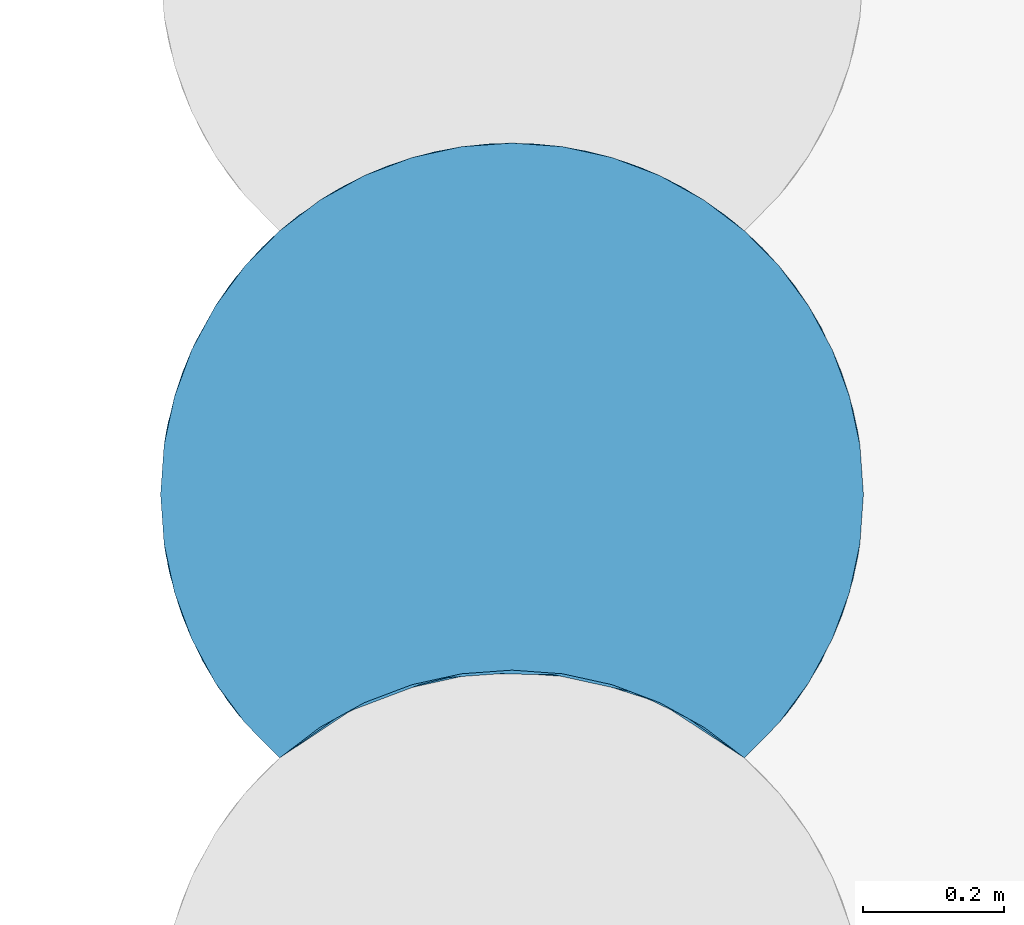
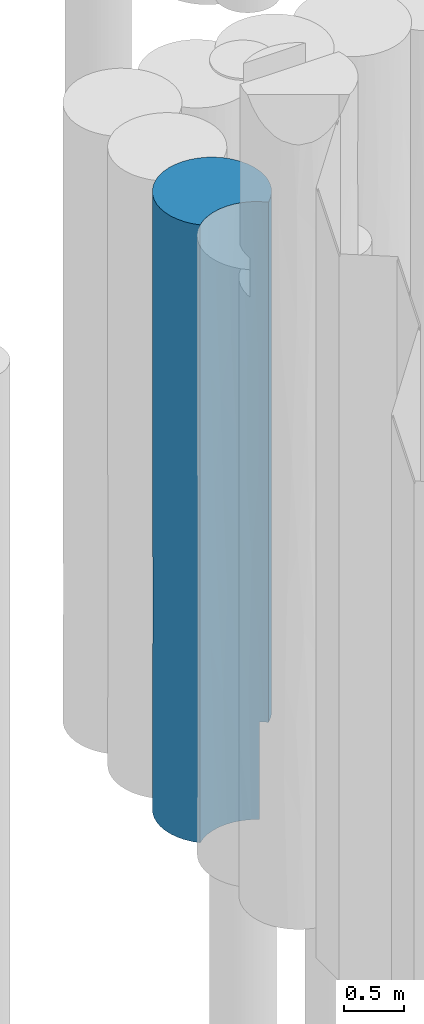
# One storey, part 77 of 104: 1 pile.
"""IFC2X3 building model written with IfcOpenShell, lengths in millimetres."""

import ifcopenshell
import ifcopenshell.guid

model = None  # the IFC model being written
_history = None  # IfcOwnerHistory: only IFC2X3 demands one
_inside = {}  # id of a spatial element -> (the spatial element, [elements in it])
_under = {}  # id of a project, library or spatial element -> (it, [spatial elements below it])
_declared = {}  # id of a project -> (the project, [libraries it declares])
_typed = {}  # id of a type object -> (the type object, [elements of that type])
_made_of = {}  # id of a material, layer set ... -> (it, [elements and type objects made of it])


def new_model(schema):
    """Start an empty IFC model of exactly this schema.

    Asked for "IFC4X3", IfcOpenShell would pick the latest addendum, in which some entities
    have other attributes; the version numbers below select the first issue.
    IFC2X3 requires an IfcOwnerHistory on every rooted entity: one is made here for all.
    """
    global model, _history
    if schema == "IFC4X3":
        model = ifcopenshell.file(schema_version=(4, 3, 0, 0))
    else:
        model = ifcopenshell.file(schema=schema)
    _inside.clear()
    _under.clear()
    _declared.clear()
    _typed.clear()
    _made_of.clear()
    _history = None
    if model.schema == "IFC2X3":
        org = make("IfcOrganization", Name="unknown")
        user = make(
            "IfcPersonAndOrganization",
            ThePerson=make("IfcPerson", FamilyName="unknown"),
            TheOrganization=org,
        )
        app = make(
            "IfcApplication",
            ApplicationDeveloper=org,
            Version="unknown",
            ApplicationFullName="unknown",
            ApplicationIdentifier="unknown",
        )
        _history = make(
            "IfcOwnerHistory",
            OwningUser=user,
            OwningApplication=app,
            ChangeAction="ADDED",
            CreationDate=0,
        )
    return model


def make(cls, **values):
    """One entity of the class cls with the attributes given. An attribute that is None is left unset."""
    return model.create_entity(
        cls, **{name: value for name, value in values.items() if value is not None}
    )


def entity(cls, *values):
    """Any entity or typed value of the class cls, its attributes in the order of the schema. None: left unset."""
    e = model.create_entity(cls)
    for i, value in enumerate(values):
        if value is not None:
            e[i] = value
    return e


def rooted(cls, **values):
    """An entity with a GlobalId (a new one), such as an element, a storey or a relation."""
    return make(cls, GlobalId=ifcopenshell.guid.new(), OwnerHistory=_history, **values)


def si_unit(unit_type, name, prefix=None):
    """IfcSIUnit, for example si_unit("LENGTHUNIT", "METRE", prefix="MILLI")."""
    return make("IfcSIUnit", UnitType=unit_type, Prefix=prefix, Name=name)


def converted_unit(unit_type, name, factor, base, dimensions=None, offset=None):
    """IfcConversionBasedUnit, such as the inch: factor (a typed value) times the base unit."""
    return make(
        "IfcConversionBasedUnit"
        if offset is None
        else "IfcConversionBasedUnitWithOffset",
        ConversionOffset=offset,
        Dimensions=None
        if dimensions is None
        else entity("IfcDimensionalExponents", *dimensions),
        UnitType=unit_type,
        Name=name,
        ConversionFactor=make(
            "IfcMeasureWithUnit", ValueComponent=factor, UnitComponent=base
        ),
    )


def derived_unit(unit_type, elements):
    """IfcDerivedUnit: a product of units, each with its exponent."""
    return make(
        "IfcDerivedUnit",
        Elements=[
            make("IfcDerivedUnitElement", Unit=unit, Exponent=power)
            for unit, power in elements
        ],
        UnitType=unit_type,
    )


def assignment(units):
    """IfcUnitAssignment: the units of a project."""
    return None if units is None else make("IfcUnitAssignment", Units=units)


def point(xyz):
    """IfcCartesianPoint."""
    return None if xyz is None else make("IfcCartesianPoint", Coordinates=xyz)


def direction(xyz):
    """IfcDirection."""
    return None if xyz is None else make("IfcDirection", DirectionRatios=xyz)


def frame(location, z_axis=None, x_axis=None):
    """IfcAxis2Placement3D, a coordinate frame: its origin and axes. An axis left out is left unset."""
    return make(
        "IfcAxis2Placement3D",
        Location=point(location),
        Axis=direction(z_axis),
        RefDirection=direction(x_axis),
    )


def origin():
    """The frame at (0, 0, 0) with its axes left unset."""
    return frame((0.0, 0.0, 0.0))


def place(relative_to, where):
    """IfcLocalPlacement: puts the frame where relative to a parent placement (None: the world)."""
    return make(
        "IfcLocalPlacement", PlacementRelTo=relative_to, RelativePlacement=where
    )


def context(
    kind, dimensions, precision=None, world=None, true_north=None, identifier=None
):
    """IfcGeometricRepresentationContext, for example the 3D "Model" context."""
    return make(
        "IfcGeometricRepresentationContext",
        ContextIdentifier=identifier,
        ContextType=kind,
        CoordinateSpaceDimension=dimensions,
        Precision=precision,
        WorldCoordinateSystem=world,
        TrueNorth=true_north,
    )


def subcontext(parent, identifier, kind, view, scale=None):
    """IfcGeometricRepresentationSubContext, for example "Body" below "Model"."""
    return make(
        "IfcGeometricRepresentationSubContext",
        ContextIdentifier=identifier,
        ContextType=kind,
        ParentContext=parent,
        TargetScale=scale,
        TargetView=view,
    )


def project(units=None, contexts=None):
    """IfcProject with its units and contexts."""
    return rooted(
        "IfcProject",
        Name="project",
        RepresentationContexts=contexts,
        UnitsInContext=assignment(units),
    )


def spatial(cls, under=None, at=None, **own):
    """A site, building, storey or space (cls), placed at a placement, below another one or the project."""
    s = rooted(cls, ObjectPlacement=at, **own)
    if under is not None:
        _under.setdefault(under.id(), (under, []))[1].append(s)
    return s


def faces_of(points, faces, orient=None, outer=None):
    """IfcFace entities. A face is a list of loops; a loop is a list of indices into points, from 0.

    orient and outer hold one flag for each loop. By default every Orientation is true, the
    first loop of a face is its IfcFaceOuterBound and the others are IfcFaceBound.
    """
    made = []
    for i, loops in enumerate(faces):
        bounds = []
        for j, loop in enumerate(loops):
            is_outer = j == 0 if outer is None else outer[i][j]
            bounds.append(
                make(
                    "IfcFaceOuterBound" if is_outer else "IfcFaceBound",
                    Bound=make("IfcPolyLoop", Polygon=[points[k] for k in loop]),
                    Orientation=True if orient is None else orient[i][j],
                )
            )
        made.append(make("IfcFace", Bounds=bounds))
    return made


def faceted_brep(points, faces, orient=None, outer=None, voids=None):
    """IfcFacetedBrep: a solid bounded by flat faces; with voids (closed shells), ...WithVoids."""
    shared = [point(p) for p in points]
    hull = make("IfcClosedShell", CfsFaces=faces_of(shared, faces, orient, outer))
    if voids is None:
        return make("IfcFacetedBrep", Outer=hull)
    return make(
        "IfcFacetedBrepWithVoids",
        Outer=hull,
        Voids=[
            make(cls, CfsFaces=faces_of(shared, fs, o, b)) for cls, fs, o, b in voids
        ],
    )


def shape(context_of_items, identifier, shape_type, items):
    """IfcShapeRepresentation: the items that make up one representation, for example the "Body"."""
    return make(
        "IfcShapeRepresentation",
        ContextOfItems=context_of_items,
        RepresentationIdentifier=identifier,
        RepresentationType=shape_type,
        Items=items,
    )


def source(mapping_origin, context_of_items, identifier, shape_type, items):
    """IfcRepresentationMap: a shape defined once, which mapped items show again and again."""
    return make(
        "IfcRepresentationMap",
        MappingOrigin=mapping_origin,
        MappedRepresentation=shape(context_of_items, identifier, shape_type, items),
    )


def transform(
    local_origin,
    x_axis=None,
    y_axis=None,
    z_axis=None,
    scale=None,
    scale2=None,
    scale3=None,
    uniform=True,
):
    """IfcCartesianTransformationOperator3D, or its non-uniform kind. x_axis, y_axis, z_axis: its Axis1, 2, 3."""
    if uniform:
        return make(
            "IfcCartesianTransformationOperator3D",
            Axis1=direction(x_axis),
            Axis2=direction(y_axis),
            LocalOrigin=point(local_origin),
            Scale=scale,
            Axis3=direction(z_axis),
        )
    return make(
        "IfcCartesianTransformationOperator3DnonUniform",
        Axis1=direction(x_axis),
        Axis2=direction(y_axis),
        LocalOrigin=point(local_origin),
        Scale=scale,
        Axis3=direction(z_axis),
        Scale2=scale2,
        Scale3=scale3,
    )


def mapped(mapping_source, mapping_target):
    """IfcMappedItem: shows the shape of a source again, moved by a transform."""
    return make(
        "IfcMappedItem", MappingSource=mapping_source, MappingTarget=mapping_target
    )


def material(Name=None, Category=None):
    """IfcMaterial."""
    return make("IfcMaterial", Name=Name, Category=Category)


def made_of(thing, what):
    """Note that an element or type object is made of a material, layer set ...; save() writes the relation."""
    if what is not None:
        _made_of.setdefault(what.id(), (what, []))[1].append(thing)
    return thing


def element(
    cls,
    number,
    at=None,
    inside=None,
    cuts=None,
    type_object=None,
    material=None,
    context=None,
    identifier="Body",
    shape_type=None,
    held_by="IfcProductDefinitionShape",
    body=None,
    shapes=None,
    **own,
):
    """One element of the class cls, such as IfcWall. Its Tag is "e" and its number.

    at: its placement. inside: the storey or other place that contains it. cuts: it is an
    opening in that element (IfcRelVoidsElement). A single representation is given by context,
    identifier, shape_type and body (its items); several are given by shapes. held_by: the class
    of the entity that holds the representations. save() writes the other relations.
    """
    e = rooted(cls, Tag="e%d" % number, ObjectPlacement=at, **own)
    if body is not None:
        shapes = [shape(context, identifier, shape_type, body)]
    if shapes is not None:
        e.Representation = make(held_by, Representations=shapes)
    if inside is not None:
        _inside.setdefault(inside.id(), (inside, []))[1].append(e)
    if cuts is not None:
        rooted(
            "IfcRelVoidsElement", RelatingBuildingElement=cuts, RelatedOpeningElement=e
        )
    if type_object is not None:
        _typed.setdefault(type_object.id(), (type_object, []))[1].append(e)
    return made_of(e, material)


def aggregate(whole, parts):
    """IfcRelAggregates: a whole, such as a stair, and the parts it consists of."""
    return rooted("IfcRelAggregates", RelatingObject=whole, RelatedObjects=parts)


def save(model, path):
    """Write the relations noted so far, then the file.

    IfcRelAggregates (storeys below a building ...), IfcRelContainedInSpatialStructure (elements
    in a storey), IfcRelDefinesByType, IfcRelAssociatesMaterial and IfcRelDeclares: one each for
    every whole, place, type object, material and project.
    """
    for whole, parts in _under.values():
        aggregate(whole, parts)
    for where, things in _inside.values():
        rooted(
            "IfcRelContainedInSpatialStructure",
            RelatedElements=things,
            RelatingStructure=where,
        )
    for kind, things in _typed.values():
        rooted("IfcRelDefinesByType", RelatedObjects=things, RelatingType=kind)
    for what, things in _made_of.values():
        rooted("IfcRelAssociatesMaterial", RelatedObjects=things, RelatingMaterial=what)
    for by, libraries in _declared.values():
        rooted("IfcRelDeclares", RelatingContext=by, RelatedDefinitions=libraries)
    model.write(path)


model = new_model("IFC2X3")

# Units and contexts
model_context = context("Model", 3, precision=0.01, world=origin(), true_north=direction((6.12303176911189e-17, 1.0)))
body_context = subcontext(model_context, "Body", "Model", "MODEL_VIEW")
ifc_project = project(units=[si_unit("LENGTHUNIT", "METRE", prefix="MILLI"), si_unit("AREAUNIT", "SQUARE_METRE", prefix="MILLI"), si_unit("VOLUMEUNIT", "CUBIC_METRE"), converted_unit("PLANEANGLEUNIT", "DEGREE", entity("IfcRatioMeasure", 0.0174532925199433), si_unit("PLANEANGLEUNIT", "RADIAN"), dimensions=[0, 0, 0, 0, 0, 0, 0]), si_unit("MASSUNIT", "GRAM", prefix="KILO"), derived_unit("MASSDENSITYUNIT", [(si_unit("MASSUNIT", "GRAM", prefix="KILO"), 1), (si_unit("LENGTHUNIT", "METRE"), -3)]), derived_unit("MOMENTOFINERTIAUNIT", [(si_unit("LENGTHUNIT", "METRE"), 4)]), si_unit("TIMEUNIT", "SECOND"), si_unit("FREQUENCYUNIT", "HERTZ"), si_unit("THERMODYNAMICTEMPERATUREUNIT", "DEGREE_CELSIUS"), derived_unit("THERMALTRANSMITTANCEUNIT", [(si_unit("MASSUNIT", "GRAM", prefix="KILO"), 1), (si_unit("THERMODYNAMICTEMPERATUREUNIT", "KELVIN"), -1), (si_unit("TIMEUNIT", "SECOND"), -3)]), derived_unit("VOLUMETRICFLOWRATEUNIT", [(si_unit("LENGTHUNIT", "METRE"), 3), (si_unit("TIMEUNIT", "SECOND"), -1)]), si_unit("ELECTRICCURRENTUNIT", "AMPERE"), si_unit("ELECTRICVOLTAGEUNIT", "VOLT"), si_unit("POWERUNIT", "WATT"), si_unit("FORCEUNIT", "NEWTON", prefix="KILO"), si_unit("ILLUMINANCEUNIT", "LUX"), si_unit("LUMINOUSFLUXUNIT", "LUMEN"), si_unit("LUMINOUSINTENSITYUNIT", "CANDELA"), derived_unit("USERDEFINED", [(si_unit("MASSUNIT", "GRAM", prefix="KILO"), -1), (si_unit("LENGTHUNIT", "METRE"), -2), (si_unit("TIMEUNIT", "SECOND"), 3), (si_unit("LUMINOUSFLUXUNIT", "LUMEN"), 1)]), derived_unit("LINEARVELOCITYUNIT", [(si_unit("LENGTHUNIT", "METRE"), 1), (si_unit("TIMEUNIT", "SECOND"), -1)]), si_unit("PRESSUREUNIT", "PASCAL"), derived_unit("USERDEFINED", [(si_unit("LENGTHUNIT", "METRE"), -2), (si_unit("MASSUNIT", "GRAM", prefix="KILO"), 1), (si_unit("TIMEUNIT", "SECOND"), -2)]), derived_unit("LINEARFORCEUNIT", [(si_unit("MASSUNIT", "GRAM", prefix="KILO"), 1), (si_unit("LENGTHUNIT", "METRE"), 1), (si_unit("TIMEUNIT", "SECOND"), -2), (si_unit("LENGTHUNIT", "METRE"), -1)]), derived_unit("PLANARFORCEUNIT", [(si_unit("MASSUNIT", "GRAM", prefix="KILO"), 1), (si_unit("LENGTHUNIT", "METRE"), 1), (si_unit("TIMEUNIT", "SECOND"), -2), (si_unit("LENGTHUNIT", "METRE"), -2)])], contexts=[model_context])

# Site, building, storey
site_placement = place(None, origin())
site = spatial("IfcSite", under=ifc_project, at=site_placement, Name="Theater aan de Parade", CompositionType="ELEMENT")
building_placement = place(site_placement, origin())
building = spatial("IfcBuilding", under=site, at=building_placement, Name="Theater aan de Parade", CompositionType="ELEMENT")
storey_placement = place(building_placement, frame((0.0, 0.0, -5520.0)))
storey = spatial("IfcBuildingStorey", under=building, at=storey_placement, Name="-2 kelder", CompositionType="ELEMENT", Elevation=-5520.0)

# Pile
ifc_material = material(Name="00_PBT_MAT_grout")
shared_shape = source(origin(), body_context, "Body", "Brep", [
    faceted_brep([(499.442677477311, 126.590638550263, 0.0), (427.869621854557, 121.129930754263, 0.0), (357.816033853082, 105.476813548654, 0.0), (290.725727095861, 79.9538884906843, 0.0), (227.981455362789, 45.0871828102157, 0.0), (170.876358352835, 1.59527223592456, 0.0), (121.346801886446, 51.9245147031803, 0.0), (79.4054520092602, 108.722623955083, 0.0), (45.8819407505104, 170.863992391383, 0.0), (21.4449513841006, 237.111691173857, 0.0), (6.58372515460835, 306.142676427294, 0.0), (1.5952722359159, 376.595272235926, 0.0), (6.58352066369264, 447.046431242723, 0.0), (21.4458788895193, 516.082046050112, 0.0), (45.8852696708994, 582.333925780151, 0.0), (79.4126856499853, 644.479321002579, 0.0), (121.35872131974, 701.279989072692, 0.0), (170.893266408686, 751.601786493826, 0.0), (227.989151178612, 795.092214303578, 0.0), (290.729798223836, 829.955782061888, 0.0), (357.815975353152, 855.476795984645, 0.0), (427.865647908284, 871.129338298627, 0.0), (499.435723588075, 876.59060856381, 0.0), (571.051711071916, 871.747575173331, 0.0), (641.238026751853, 856.699324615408, 0.0), (708.546935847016, 831.75569332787, 0.0), (771.595272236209, 797.427780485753, 0.0), (771.595272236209, 47.4277804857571, 0.0), (708.553241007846, 81.7528264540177, 0.0), (641.245770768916, 106.697072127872, 0.0), (571.060073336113, 121.746402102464, 0.0), (970.701993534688, 549.623836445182, 1936.59710604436), (903.817458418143, 673.609266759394, 1936.59696648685), (941.648218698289, 613.983992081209, 2685.5528055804), (10.8911335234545, 472.561142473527, 1461.62906799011), (1.5952722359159, 376.595272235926, 1561.5383887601), (429.563402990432, 871.379477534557, 6320.0), (465.485042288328, 875.289618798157, 4851.31994627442), (324.80449618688, 844.29712331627, 5403.32354686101), (832.314186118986, 751.595272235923, 1000.0), (817.817253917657, 763.898329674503, 2324.26168103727), (9.58623032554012, 465.629550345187, 5332.19950044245), (1.5952722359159, 376.595272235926, 6320.0), (6.58372515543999, 447.047868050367, 6320.0), (881.911025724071, 701.187212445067, 2873.26139544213), (922.945694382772, 645.786322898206, 3543.81173077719), (743.911109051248, 813.954432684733, 5039.42840175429), (720.775073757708, 825.995110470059, 3962.51754172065), (609.170061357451, 864.885825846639, 4142.24158399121), (362.180461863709, 856.765565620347, 4400.60240254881), (259.279434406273, 813.954432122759, 4689.50091238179), (923.786739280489, 644.465324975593, 1000.0), (881.840058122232, 701.270344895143, 1000.0), (323.814341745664, 843.921647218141, 3159.60110456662), (473.831879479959, 875.823871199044, 3425.70874643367), (606.415263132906, 865.484594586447, 1134.66342330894), (690.194650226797, 839.661438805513, 839.16357099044), (609.170061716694, 864.88582576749, 5256.43819287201), (644.151241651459, 855.842385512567, 6320.0), (711.697783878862, 830.309868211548, 6320.0), (497.367231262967, 876.577395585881, 1167.3071758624), (857.968549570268, 727.306103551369, 4962.93441691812), (832.314186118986, 751.595272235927, 6320.0), (771.595272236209, 797.427780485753, 1000.0), (802.863033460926, 775.641304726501, 1000.0), (573.627141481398, 871.379477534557, 6320.0), (993.494242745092, 466.235680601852, 5510.84320351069), (981.745592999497, 516.078853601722, 6320.0), (996.60681931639, 447.047868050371, 6320.0), (1001.59527223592, 376.595272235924, 4123.07545194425), (986.305174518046, 499.299431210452, 4240.92356346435), (392.559574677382, 864.561681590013, 1443.73415786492), (535.330736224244, 875.455892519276, 2114.78149993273), (970.698014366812, 549.634624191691, 5278.6058710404), (941.64512386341, 613.989728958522, 4402.09431658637), (923.003434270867, 645.695924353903, 5331.30351063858), (957.312701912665, 582.317473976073, 1000.0), (175.126697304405, 755.30131863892, 939.533715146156), (1001.59527223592, 376.595272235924, 2561.53772597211), (1001.59527223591, 376.595272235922, 1780.76886298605), (994.374576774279, 461.262603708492, 2171.15327678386), (1001.59527223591, 376.595272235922, 5539.2311370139), (32.494504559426, 549.639976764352, 1966.70816278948), (32.4945046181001, 549.639976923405, 956.549973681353), (258.733070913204, 813.651276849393, 1008.07714060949), (297.928310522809, 833.234920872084, 2005.81630489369), (957.308603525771, 582.326552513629, 6320.0), (923.785092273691, 644.46792081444, 6320.0), (750.741025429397, 810.100051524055, 3044.09575945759), (684.267370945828, 842.031523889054, 2350.78487339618), (881.843742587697, 701.266029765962, 6320.0), (774.85935450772, 795.31563398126, 6320.0), (1.5952722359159, 376.595272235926, 3123.07677752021), (10.3974125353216, 470.001174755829, 3873.88299978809), (12.1476249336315, 478.776486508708, 2732.69098828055), (198.655193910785, 774.373236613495, 1838.37949558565), (110.025363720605, 687.518103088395, 2509.93474801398), (196.713971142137, 772.887326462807, 3255.54786768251), (99.3817752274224, 673.621033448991, 1353.02956557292), (1001.59527223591, 376.595272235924, 1000.0), (996.608885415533, 447.033349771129, 1000.0), (99.372313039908, 673.608219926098, 3666.81957172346), (50.2914283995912, 591.827334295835, 3918.60935181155), (80.5154796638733, 646.209456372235, 4730.25422552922), (160.125560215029, 741.832778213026, 4083.63349079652), (817.817253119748, 763.898330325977, 3660.0), (1.5952722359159, 376.595272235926, 780.762985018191), (45.8819409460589, 582.32655251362, 6320.0), (32.4925294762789, 549.634622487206, 4728.94020639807), (21.4449514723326, 516.078853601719, 6320.0), (1001.59527223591, 376.595272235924, 6320.0), (49.4106671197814, 589.970722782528, 3005.67000365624), (1.5952722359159, 376.595272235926, 2342.30758314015), (1.5952722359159, 376.595272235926, 4758.46161123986), (501.595272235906, 876.595272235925, 6320.0), (981.749228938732, 516.066336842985, 1000.0), (291.492760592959, 830.309868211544, 6320.0), (359.039302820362, 855.842385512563, 6320.0), (244.049729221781, 805.162995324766, 5505.6519205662), (145.22199374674, 727.3061023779, 5002.1937644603), (170.876358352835, 751.595272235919, 6320.0), (79.4054521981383, 644.467920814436, 6320.0), (228.331189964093, 795.315633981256, 6320.0), (661.237391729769, 850.424770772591, 3249.53922965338), (568.862056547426, 872.049790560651, 3348.26399696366), (121.346801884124, 701.266029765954, 6320.0), (388.739842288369, 863.69244111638, 2414.79154956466), (986.968382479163, 496.64919284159, 3034.33427857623), (1.59527223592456, 376.595272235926, 2379.23701498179), (1.5952722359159, 376.595272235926, 3196.93312538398), (1.5952722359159, 376.595272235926, 3940.76919438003), (1.5952722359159, 376.595272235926, 5539.23701498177), (81.9325787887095, 104.780585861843, 1017.18511568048), (8.55806942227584, 293.442902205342, 5148.84671878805), (14.9312625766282, 261.886328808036, 4158.77156998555), (32.4925295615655, 203.555921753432, 5243.64351772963), (95.9437805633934, 84.2823110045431, 3433.19596200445), (61.5454190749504, 139.200818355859, 1966.56472228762), (113.311086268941, 61.5787791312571, 1951.92213356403), (170.876358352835, 1.59527223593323, 1561.53978600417), (121.346801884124, 51.9245147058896, 6320.0), (170.876358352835, 1.59527223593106, 4721.53978600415), (170.876358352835, 1.59527223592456, 4758.46574360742), (170.876358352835, 1.59527223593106, 6320.0), (61.5454192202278, 139.200818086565, 4325.86684400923), (82.9474550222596, 103.220062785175, 5286.71455942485), (8.57236365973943, 293.358191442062, 1171.1532815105), (32.492529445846, 203.555922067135, 1063.68379680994), (6.58372515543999, 306.142676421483, 6320.0), (79.4054521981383, 108.722623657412, 6320.0), (15.0443011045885, 261.407805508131, 2148.18605632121), (45.8819409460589, 170.863991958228, 6320.0), (114.429533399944, 60.2051796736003, 4264.61051275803), (11.5744459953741, 277.199146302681, 3249.18197551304), (40.9318944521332, 182.20069317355, 3146.2157835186), (21.4449514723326, 237.111690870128, 6320.0), (170.876358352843, 1.59527223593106, 2342.30967900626), (170.876358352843, 1.59527223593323, 3123.07957200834), (170.876358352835, 1.59527223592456, 3940.77173111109), (573.617282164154, 121.38091277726, 6320.0), (644.137097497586, 105.846592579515, 6320.0), (711.683855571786, 80.3163177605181, 6320.0), (774.848704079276, 45.3225844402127, 6320.0), (832.314186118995, 1.59527223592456, 6320.0), (881.829604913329, 51.9079576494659, 6320.0), (923.776399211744, 108.708923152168, 6320.0), (957.304439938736, 170.854769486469, 6320.0), (981.744292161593, 237.107213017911, 6320.0), (996.606932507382, 306.143471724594, 6320.0), (228.341840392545, 45.3225844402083, 6320.0), (291.506688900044, 80.3163177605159, 6320.0), (359.053446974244, 105.846592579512, 6320.0), (429.573262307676, 121.38091277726, 6320.0), (501.595272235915, 126.595272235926, 6320.0), (688.956416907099, 90.1638232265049, 1340.44139437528), (758.349408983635, 55.6375932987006, 1886.54071626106), (712.198170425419, 80.0778179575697, 2645.47714214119), (802.827671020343, 25.6679998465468, 1000.0), (832.314186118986, 1.59527223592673, 1000.0), (771.595272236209, 47.4277804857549, 1000.0), (258.727089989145, 63.6479533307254, 1046.28958521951), (606.423334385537, 115.482864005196, 873.534477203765), (832.314186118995, 1.59527223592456, 5539.23088831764), (323.812272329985, 93.9208599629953, 1922.57923863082), (284.507723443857, 77.0095217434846, 3116.55337305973), (238.9230271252, 52.0400884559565, 1951.92213538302), (658.042832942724, 101.48911379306, 5463.37972999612), (763.620284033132, 52.4390149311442, 4517.96417940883), (832.314186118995, 1.59527223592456, 4123.0753867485), (832.314186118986, 1.59527223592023, 4758.48138026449), (357.534922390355, 105.392322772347, 989.159883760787), (678.371966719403, 94.3024458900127, 4619.30089569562), (743.898833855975, 63.9612334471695, 5372.40596327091), (463.55802865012, 125.146340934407, 1355.76962226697), (606.423333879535, 115.482864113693, 1807.34831183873), (584.846448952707, 119.615800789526, 4046.97468994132), (674.35448587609, 95.8012548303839, 3462.96037064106), (465.490010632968, 125.289978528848, 3342.0151651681), (400.805957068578, 116.331439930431, 2567.64778405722), (503.979521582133, 126.589587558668, 2345.64036385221), (592.444462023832, 118.272427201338, 3016.22319950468), (394.03255252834, 114.888484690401, 5404.3890636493), (259.291709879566, 63.9612330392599, 5404.38906418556), (370.221463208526, 109.027570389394, 3411.71708895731), (243.100292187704, 54.5910026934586, 4578.4138649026), (324.818576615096, 94.3024454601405, 4691.94526145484), (537.700532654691, 125.289978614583, 4983.42802673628), (762.276659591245, 53.2628410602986, 3508.94704062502), (832.314186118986, 1.59527223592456, 2561.53822336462), (434.379932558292, 122.056772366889, 4387.56403530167), (832.314186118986, 1.59527223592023, 1780.75930986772), (832.314186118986, 1.59527223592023, 3196.92632242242), (970.695457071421, 203.548987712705, 5256.33302343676), (941.638871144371, 139.189225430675, 4353.50110748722), (986.330893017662, 253.992752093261, 4222.15722588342), (994.345179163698, 291.757018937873, 2171.15327928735), (996.609072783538, 306.158511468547, 1000.0), (993.436677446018, 286.639549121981, 5508.39476971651), (903.820502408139, 79.5853999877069, 1925.71893017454), (923.789227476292, 108.729141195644, 1000.0), (957.314186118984, 170.876358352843, 1000.0), (970.703048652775, 203.569568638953, 1925.71893010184), (981.749923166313, 237.126597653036, 1000.0), (881.843695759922, 51.9244598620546, 1000.0), (986.857684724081, 256.094687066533, 3026.27909694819), (941.650178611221, 139.210185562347, 2661.03216303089), (921.257295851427, 104.779551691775, 5302.86416584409), (893.574826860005, 66.189040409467, 3764.71766030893), (941.741512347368, 139.379574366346, 3507.26687804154), (889.495408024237, 61.1059940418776, 2769.87347447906)], [[[0, 1, 2, 3, 4, 5, 6, 7, 8, 9, 10, 11, 12, 13, 14, 15, 16, 17, 18, 19, 20, 21, 22, 23, 24, 25, 26, 27, 28, 29, 30]], [[31, 32, 33]], [[34, 12, 35]], [[36, 37, 38]], [[39, 40, 32]], [[41, 42, 43]], [[44, 45, 33]], [[46, 47, 48]], [[38, 49, 50]], [[51, 52, 32]], [[53, 49, 54]], [[24, 55, 56]], [[37, 57, 48]], [[57, 58, 59]], [[60, 23, 22]], [[24, 23, 55]], [[61, 46, 62]], [[63, 26, 25]], [[64, 40, 39]], [[58, 57, 65]], [[66, 67, 68]], [[66, 69, 70]], [[71, 72, 60]], [[73, 74, 75]], [[32, 76, 51]], [[33, 32, 44]], [[77, 18, 17]], [[78, 79, 80]], [[66, 70, 73]], [[68, 81, 66]], [[82, 83, 34]], [[63, 40, 64]], [[84, 85, 71]], [[86, 73, 75]], [[75, 87, 86]], [[60, 21, 71]], [[88, 40, 89]], [[90, 61, 62]], [[91, 62, 46]], [[92, 93, 94]], [[95, 96, 97]], [[59, 91, 46]], [[77, 16, 98]], [[57, 59, 46]], [[79, 99, 100]], [[40, 63, 89]], [[86, 67, 73]], [[19, 18, 84]], [[101, 102, 103]], [[104, 50, 97]], [[18, 77, 84]], [[71, 21, 20]], [[55, 72, 89]], [[46, 48, 57]], [[55, 60, 72]], [[77, 95, 84]], [[105, 46, 61]], [[12, 11, 106, 35]], [[45, 61, 74]], [[75, 90, 87]], [[107, 108, 109]], [[15, 98, 16]], [[68, 110, 81]], [[82, 111, 96]], [[83, 14, 13]], [[32, 31, 76]], [[83, 15, 14]], [[94, 34, 112]], [[41, 93, 113]], [[57, 37, 114]], [[65, 57, 114]], [[31, 115, 76]], [[93, 41, 108]], [[114, 37, 36]], [[38, 116, 117]], [[97, 50, 53]], [[73, 70, 74]], [[116, 38, 118]], [[100, 115, 80]], [[98, 15, 83]], [[118, 119, 120]], [[82, 94, 111]], [[103, 107, 121]], [[120, 122, 118]], [[121, 119, 103]], [[20, 19, 84]], [[50, 118, 38]], [[41, 109, 108]], [[123, 124, 48]], [[119, 121, 125]], [[119, 125, 120]], [[71, 85, 126]], [[56, 89, 63]], [[25, 56, 63]], [[98, 82, 96]], [[85, 84, 95]], [[20, 84, 71]], [[83, 13, 12]], [[98, 83, 82]], [[39, 32, 52]], [[44, 32, 40]], [[127, 31, 33]], [[80, 115, 31]], [[36, 38, 117]], [[49, 38, 37]], [[127, 33, 45]], [[69, 78, 127]], [[72, 54, 124]], [[123, 47, 88]], [[54, 49, 37]], [[53, 50, 49]], [[48, 54, 37]], [[72, 71, 126]], [[69, 127, 70]], [[45, 70, 127]], [[97, 85, 95]], [[126, 85, 53]], [[40, 105, 44]], [[105, 61, 45]], [[105, 45, 44]], [[45, 74, 70]], [[74, 61, 75]], [[90, 75, 61]], [[53, 54, 126]], [[72, 126, 54]], [[16, 77, 17]], [[98, 95, 77]], [[12, 34, 83]], [[34, 94, 82]], [[94, 112, 128, 92]], [[34, 35, 112]], [[102, 93, 108]], [[93, 92, 129, 130, 113]], [[111, 102, 101]], [[93, 111, 94]], [[111, 101, 96]], [[97, 96, 101]], [[95, 98, 96]], [[97, 101, 104]], [[97, 53, 85]], [[23, 60, 55]], [[21, 60, 22]], [[119, 118, 50]], [[116, 118, 122]], [[93, 102, 111]], [[103, 102, 108]], [[103, 108, 107]], [[103, 119, 104]], [[66, 81, 69]], [[67, 66, 73]], [[41, 113, 131, 42]], [[109, 41, 43]], [[46, 105, 47]], [[88, 47, 105]], [[40, 88, 105]], [[123, 88, 89]], [[124, 89, 72]], [[48, 47, 123]], [[124, 123, 89]], [[54, 48, 124]], [[24, 56, 25]], [[89, 56, 55]], [[80, 127, 78]], [[100, 80, 79]], [[127, 80, 31]], [[103, 104, 101]], [[50, 104, 119]], [[132, 8, 7]], [[133, 134, 135]], [[136, 137, 138]], [[5, 139, 6]], [[140, 141, 142, 143]], [[135, 144, 145]], [[146, 9, 147]], [[139, 132, 6]], [[148, 42, 131]], [[11, 10, 106]], [[106, 146, 35]], [[132, 147, 8]], [[149, 145, 140]], [[150, 147, 137]], [[151, 145, 149]], [[133, 148, 131]], [[10, 9, 146]], [[136, 152, 144]], [[144, 135, 134]], [[153, 154, 134]], [[148, 133, 155]], [[145, 151, 135]], [[144, 154, 136]], [[9, 8, 147]], [[137, 147, 132]], [[135, 151, 155]], [[134, 113, 130, 129]], [[150, 154, 153]], [[150, 137, 154]], [[153, 128, 150]], [[136, 154, 137]], [[134, 154, 144]], [[152, 145, 144]], [[140, 145, 141]], [[6, 132, 7]], [[136, 138, 156]], [[138, 139, 156]], [[152, 157, 158, 141]], [[138, 132, 139]], [[157, 136, 156]], [[132, 138, 137]], [[157, 152, 136]], [[145, 152, 141]], [[133, 131, 113]], [[134, 133, 113]], [[133, 135, 155]], [[146, 150, 35]], [[10, 146, 106]], [[150, 146, 147]], [[134, 129, 153]], [[150, 128, 112, 35]], [[153, 129, 92, 128]], [[159, 160, 161, 162, 163, 164, 165, 166, 167, 168, 110, 68, 67, 86, 87, 90, 62, 91, 59, 58, 65, 114, 36, 117, 116, 122, 120, 125, 121, 107, 109, 43, 42, 148, 155, 151, 149, 140, 143, 169, 170, 171, 172, 173]], [[174, 175, 176]], [[177, 178, 175]], [[28, 27, 179]], [[3, 180, 4]], [[29, 181, 30]], [[4, 180, 5]], [[182, 163, 162]], [[29, 28, 181]], [[183, 184, 185]], [[160, 159, 186]], [[28, 174, 181]], [[187, 188, 189, 182]], [[3, 190, 180]], [[179, 177, 175]], [[186, 191, 192]], [[187, 192, 191]], [[5, 180, 139]], [[193, 181, 194]], [[162, 161, 192]], [[1, 0, 193]], [[160, 186, 161]], [[192, 182, 162]], [[3, 2, 190]], [[195, 196, 191]], [[197, 198, 199]], [[199, 200, 197]], [[201, 170, 202]], [[2, 1, 190]], [[198, 203, 184]], [[183, 180, 190]], [[184, 158, 157, 156]], [[202, 142, 204]], [[161, 186, 192]], [[202, 169, 143]], [[200, 194, 176]], [[193, 0, 181]], [[202, 205, 201]], [[170, 201, 171]], [[170, 169, 202]], [[159, 173, 206]], [[201, 206, 173]], [[207, 176, 208]], [[172, 171, 201]], [[179, 175, 174]], [[201, 205, 209]], [[183, 198, 184]], [[205, 202, 204]], [[142, 202, 143]], [[172, 201, 173]], [[203, 198, 197]], [[0, 30, 181]], [[194, 181, 174]], [[209, 206, 201]], [[206, 209, 195]], [[176, 194, 174]], [[179, 174, 28]], [[194, 199, 193]], [[196, 207, 187]], [[175, 208, 176]], [[175, 178, 210, 208]], [[195, 209, 197]], [[207, 196, 176]], [[190, 193, 183]], [[193, 190, 1]], [[192, 187, 182]], [[188, 187, 207]], [[207, 208, 211, 188]], [[196, 200, 176]], [[200, 196, 195]], [[191, 196, 187]], [[200, 195, 197]], [[206, 195, 191]], [[200, 199, 194]], [[183, 193, 198]], [[199, 198, 193]], [[156, 139, 185]], [[204, 158, 184]], [[203, 209, 205]], [[184, 203, 205]], [[203, 197, 209]], [[186, 206, 191]], [[206, 186, 159]], [[204, 184, 205]], [[139, 180, 185]], [[204, 142, 141, 158]], [[156, 185, 184]], [[183, 185, 180]], [[212, 213, 214]], [[215, 216, 79]], [[168, 217, 81]], [[218, 219, 220, 221]], [[220, 222, 221]], [[218, 223, 219]], [[224, 225, 221]], [[189, 226, 164]], [[213, 212, 226]], [[217, 167, 212]], [[216, 215, 222]], [[215, 224, 221]], [[166, 226, 212]], [[227, 189, 188, 211]], [[165, 226, 166]], [[167, 166, 212]], [[164, 163, 182, 189]], [[213, 227, 228]], [[178, 223, 210]], [[225, 218, 221]], [[216, 99, 79]], [[229, 227, 211]], [[69, 217, 214]], [[218, 229, 210]], [[110, 168, 81]], [[229, 218, 225]], [[210, 223, 218]], [[78, 69, 224]], [[81, 217, 69]], [[228, 214, 213]], [[224, 69, 214]], [[164, 226, 165]], [[227, 226, 189]], [[228, 227, 229]], [[229, 211, 208, 210]], [[228, 229, 225]], [[227, 213, 226]], [[225, 224, 228]], [[214, 228, 224]], [[167, 217, 168]], [[214, 217, 212]], [[215, 79, 78]], [[224, 215, 78]], [[215, 221, 222]], [[179, 63, 64, 39, 52, 51, 76, 115, 100, 99, 216, 222, 220, 219, 223, 178, 177]], [[63, 179, 27, 26]]]),
])
pile_placement = place(storey_placement, frame((73298.4047277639, 18777.3807468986, -3840.0)))
element("IfcPile", 1, at=pile_placement, inside=storey, material=ifc_material, Name="17_PBT_SFO_grondkering_rond:Ø1000 (grondkering)", ObjectType="17_PBT_SFO_grondkering_rond:Ø1000 (grondkering)", PredefinedType="NOTDEFINED", context=body_context, shape_type="MappedRepresentation", body=[
    mapped(shared_shape, transform((0.0, 0.0, 0.0), scale=1.0)),
])

save(model, "model.ifc")
